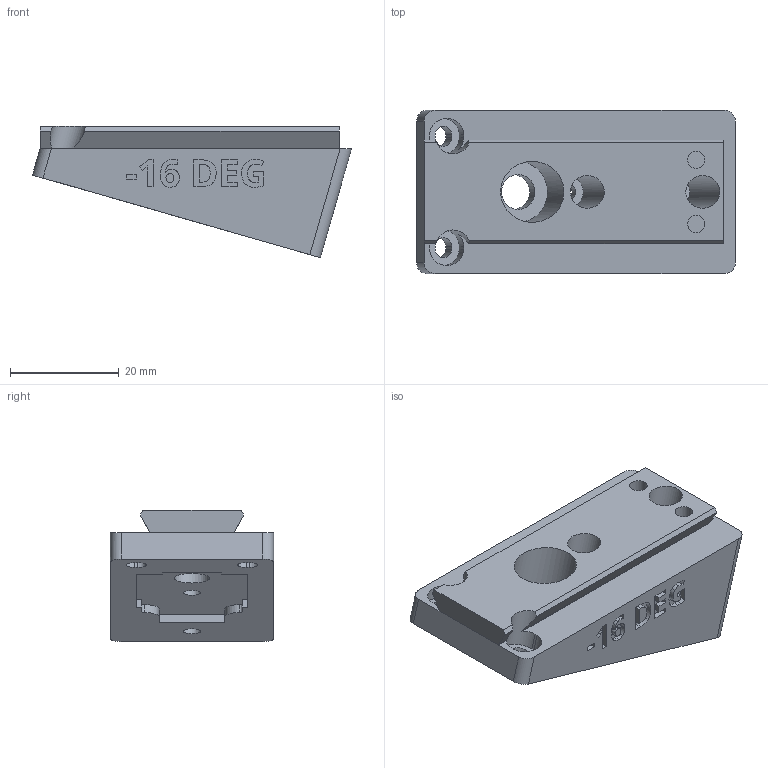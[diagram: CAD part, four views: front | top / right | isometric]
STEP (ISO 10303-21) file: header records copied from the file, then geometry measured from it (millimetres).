
FILE_DESCRIPTION(/* description */ ('STEP AP242 Edition 2','CAx-IF Rec.Pracs.---Representation and Presentation of Product Manufacturing Information (PMI)---4.0---2014-10-13','CAx-IF Rec.Pracs.---3D Tessellated Geometry---0.4---2014-09-14','2;1','CAx-IF Rec.Pracs.---User Defined Attributes---1.5---2016-08-15'),/* implementation_level */ '2;1');
FILE_NAME(/* name */ 'Camera Wedges - CAMERA MOUNTING WEDGE, NEG, -16 DEG',/* time_stamp */ '2026-07-08T20:34:49Z',/* author */ (''),/* organization */ (''),/* preprocessor_version */ 'ST-DEVELOPER v20',/* originating_system */ 'ONSHAPE BY PTC INC, 1.217',/* authorisation */ ' ');
FILE_SCHEMA (('AP242_MANAGED_MODEL_BASED_3D_ENGINEERING_MIM_LF { 1 0 10303 442 3 1 4 }'));
Length unit declared in the file: metre
Products named in the file (1): CAMERA MOUNTING WEDGE, NEG, -16 DEG
Bounding box: 58.6 x 30 x 24.09 mm (x, y, z)
Volume: 21838.1 mm3; surface area: 7891.2 mm2
Topology: 1 solids, 1 shells, 257 faces, 697 edges, 464 vertices
Faces by surface type: plane 145, bspline 70, cylinder 42
Full cylindrical faces by diameter (mm): 3.2 x4, 6 x2, 6.4 x1, 11.2 x1
Entity records: 8293 total; most frequent: CARTESIAN_POINT 2181, ORIENTED_EDGE 1378, DIRECTION 1021, EDGE_CURVE 689, VERTEX_POINT 464, LINE 453, VECTOR 453, EDGE_LOOP 297
